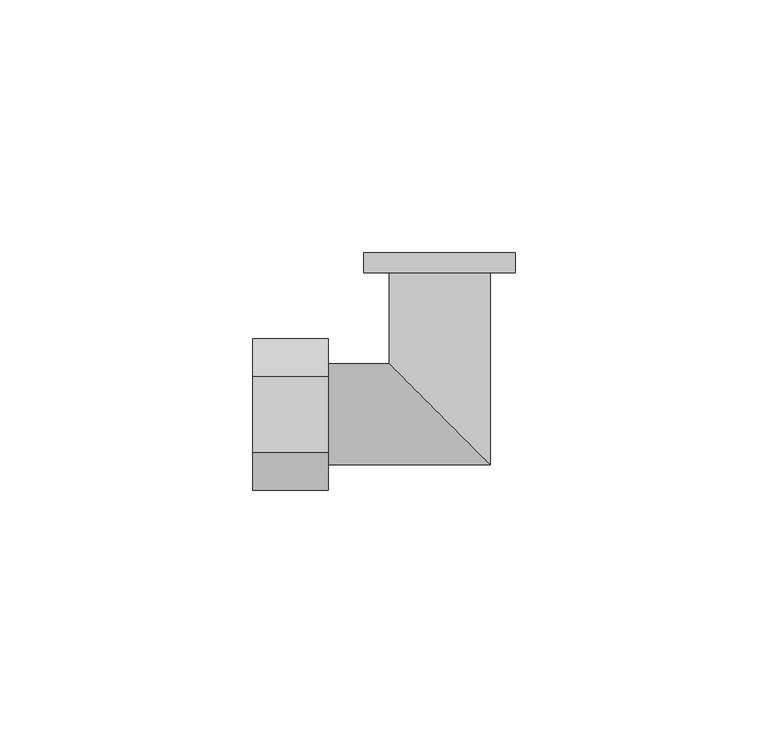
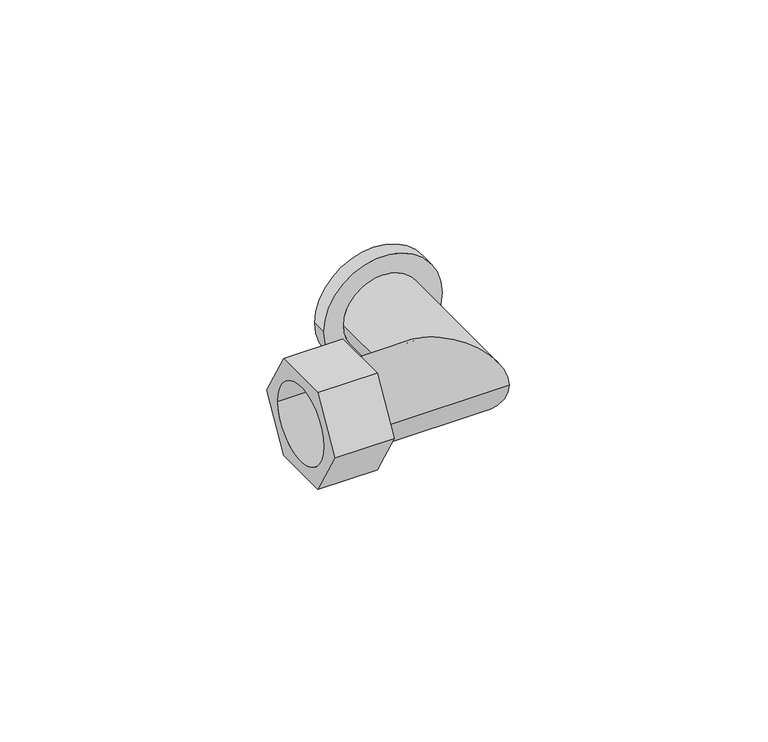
"""IFC4 building model written with IfcOpenShell, lengths in millimetres: pipe fitting geometry, БИР ПЕКС_КМП_Угольник_Резьба_Наружная : Угольник с наружной резьбой_КМП."""

from ifc_helpers import new_model, si_unit, point, frame, origin, origin_2d, place, context, project, spatial, polyline, circle_curve, ellipse_curve, trimmed, segment, composite_curve, outline, extrude, source, transform, mapped, element, save
from ifc_brep_helpers import plane_surface, cylinder_surface, revolved_surface, advanced_brep


def pipe_fitting_bd96d94c(model_context):
    return source(origin(), model_context, "Body", "SolidModel", [
        extrude(outline(polyline([(-7.5, -12.9903811), (-15.0, 0.0), (-7.5, 12.9903811), (7.5, 12.9903811), (15.0, 0.0), (7.5, -12.9903811), (-7.5, -12.9903811)]), holes=[composite_curve([segment(trimmed(circle_curve(origin_2d(), 10.0), [point((-10.0, 0.0))], [point((10.0, 0.0))], True, "CARTESIAN"), True, "CONTINUOUS"), segment(trimmed(circle_curve(origin_2d(), 10.0), [point((10.0, 0.0))], [point((-10.0, 0.0))], True, "CARTESIAN"), True, "CONTINUOUS")], self_intersect=False)]), frame((-37.0, 0.0, 0.0), z_axis=(1.0, 0.0, 0.0), x_axis=(0.0, 1.0, 0.0)), (0.0, 0.0, 1.0), 15.0),
        advanced_brep(
        [(-22.0, -10.0, 0.0), (-22.0, 10.0, 0.0), (-22.0, -9.5, 0.0), (-22.0, 9.5, 0.0), (10.0, -10.0, 0.0), (-10.0, 10.0, 0.0), (-15.0, 32.0, 0.0), (15.0, 32.0, 0.0), (9.5, 32.0, 0.0), (-9.5, 32.0, 0.0), (10.0, 28.0, 0.0), (-10.0, 28.0, 0.0), (-15.0, 28.0, 0.0), (15.0, 28.0, 0.0), (9.5, -9.5, 0.0), (-9.5, 9.5, 0.0), (-9.5, 28.0, 0.0), (9.5, 28.0, 0.0)],
        [
            (0, 1, circle_curve(frame((-22.0, 0.0, 0.0), z_axis=(-1.0, 0.0, 0.0), x_axis=(0.0, 1.0, 0.0)), 10.0)),
            (1, 0, circle_curve(frame((-22.0, 0.0, 0.0), z_axis=(-1.0, 0.0, 0.0), x_axis=(0.0, 1.0, 0.0)), 10.0)),
            (2, 3, circle_curve(frame((-22.0, 0.0, 0.0), z_axis=(1.0, 0.0, 0.0), x_axis=(0.0, 1.0, 0.0)), 9.5)),
            (3, 2, circle_curve(frame((-22.0, 0.0, 0.0), z_axis=(1.0, 0.0, 0.0), x_axis=(0.0, 1.0, 0.0)), 9.5)),
            (0, 4),
            (4, 5, ellipse_curve(frame((0.0, 0.0, 0.0), z_axis=(-0.7071067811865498, -0.7071067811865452, 0.0), x_axis=(-0.7071067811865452, 0.7071067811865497, 0.0)), 14.1421356, 10.0)),
            (5, 1),
            (5, 4, ellipse_curve(frame((0.0, 0.0, 0.0), z_axis=(-0.7071067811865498, -0.7071067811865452, 0.0), x_axis=(-0.7071067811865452, 0.7071067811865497, 0.0)), 14.1421356, 10.0)),
            (6, 7, circle_curve(frame((0.0, 32.0, 0.0), z_axis=(0.0, 1.0, 0.0), x_axis=(1.0, 0.0, 0.0)), 15.0)),
            (7, 6, circle_curve(frame((0.0, 32.0, 0.0), z_axis=(0.0, 1.0, 0.0), x_axis=(1.0, 0.0, 0.0)), 15.0)),
            (8, 9, circle_curve(frame((0.0, 32.0, 0.0), z_axis=(0.0, -1.0, 0.0), x_axis=(-1.0, 0.0, 0.0)), 9.5)),
            (9, 8, circle_curve(frame((0.0, 32.0, 0.0), z_axis=(0.0, -1.0, 0.0), x_axis=(-1.0, 0.0, 0.0)), 9.5)),
            (4, 10),
            (10, 11, circle_curve(frame((0.0, 28.0, 0.0), z_axis=(0.0, -1.0, 0.0), x_axis=(-1.0, 0.0, 0.0)), 10.0)),
            (11, 5),
            (11, 10, circle_curve(frame((0.0, 28.0, 0.0), z_axis=(0.0, -1.0, 0.0), x_axis=(-1.0, 0.0, 0.0)), 10.0)),
            (12, 13, circle_curve(frame((0.0, 28.0, 0.0), z_axis=(0.0, -1.0, 0.0), x_axis=(1.0, 0.0, 0.0)), 15.0)),
            (13, 12, circle_curve(frame((0.0, 28.0, 0.0), z_axis=(0.0, -1.0, 0.0), x_axis=(1.0, 0.0, 0.0)), 15.0)),
            (12, 6),
            (7, 13),
            (2, 14),
            (14, 15, ellipse_curve(frame((0.0, 0.0, 0.0), z_axis=(0.7071067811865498, 0.7071067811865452, 0.0), x_axis=(0.7071067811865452, -0.7071067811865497, 0.0)), 13.4350288, 9.5)),
            (15, 3),
            (15, 14, ellipse_curve(frame((0.0, 0.0, 0.0), z_axis=(0.7071067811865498, 0.7071067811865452, 0.0), x_axis=(0.7071067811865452, -0.7071067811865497, 0.0)), 13.4350288, 9.5)),
            (9, 16),
            (16, 15),
            (14, 17),
            (17, 8),
        ],
        [
            plane_surface(frame((-22.0, 0.0, 0.0), z_axis=(-1.0, 0.0, 0.0), x_axis=(0.0, 0.0, 1.0))),
            cylinder_surface(frame((-22.0, 0.0, 0.0), z_axis=(-1.0, 0.0, 0.0), x_axis=(0.0, 1.0, 0.0)), 10.0),
            plane_surface(frame((0.0, 32.0, 0.0), z_axis=(0.0, 1.0, 0.0), x_axis=(0.0, 0.0, 1.0))),
            cylinder_surface(frame((0.0, 0.0, 0.0), z_axis=(0.0, -1.0, 0.0), x_axis=(-1.0, 0.0, 0.0)), 10.0),
            plane_surface(frame((15.0, 28.0, 0.0), z_axis=(0.0, -1.0, 0.0), x_axis=(0.0, 0.0, 1.0))),
            cylinder_surface(frame((0.0, 32.0, 0.0), z_axis=(0.0, -1.0, 0.0), x_axis=(1.0, 0.0, 0.0)), 15.0),
            revolved_surface(polyline([(9.5, 9.5, 0.0), (-22.0, 9.5, 0.0)]), (-22.0, 0.0, 0.0), (1.0, 0.0, 0.0)),
            revolved_surface(polyline([(-9.5, 32.0, 0.0), (-9.5, -9.5, 0.0)]), (0.0, 0.0, 0.0), (0.0, 1.0, 0.0)),
        ],
        [
            (0, [[1, 2], [3, 4]]),
            (1, [[-1, 5, 6, 7]]),
            (1, [[-2, -7, 8, -5]]),
            (2, [[9, 10], [11, 12]]),
            (3, [[-6, 13, 14, 15]]),
            (3, [[-8, -15, 16, -13]]),
            (4, [[17, 18], [-14, -16]]),
            (5, [[-17, 19, -10, 20]]),
            (5, [[-18, -20, -9, -19]]),
            (6, [[-3, 21, 22, 23]]),
            (6, [[-4, -23, 24, -21]]),
            (7, [[-12, 25, 26, -22, 27, 28]]),
            (7, [[-11, -28, -27, -24, -26, -25]]),
        ],
    ),
    ])


if __name__ == "__main__":
    model = new_model("IFC4")
    model_context = context("Model", 3, world=origin())
    ifc_project = project(units=[si_unit("LENGTHUNIT", "METRE", prefix="MILLI")], contexts=[model_context])
    site = spatial("IfcSite", under=ifc_project)
    building = spatial("IfcBuilding", under=site)
    placement = place(None, origin())
    pipe_fitting_shape = pipe_fitting_bd96d94c(model_context)
    element("IfcPipeFitting", 1, ObjectType="БИР ПЕКС_КМП_Угольник_Резьба_Наружная : Угольник с наружной резьбой_КМП", at=placement, inside=building, context=model_context, shape_type="MappedRepresentation", body=[
        mapped(pipe_fitting_shape, transform((0.0, 0.0, 0.0), x_axis=(1.0, 0.0, 0.0), y_axis=(0.0, 1.0, 0.0), z_axis=(0.0, 0.0, 1.0))),
    ])
    save(model, "model.ifc")
